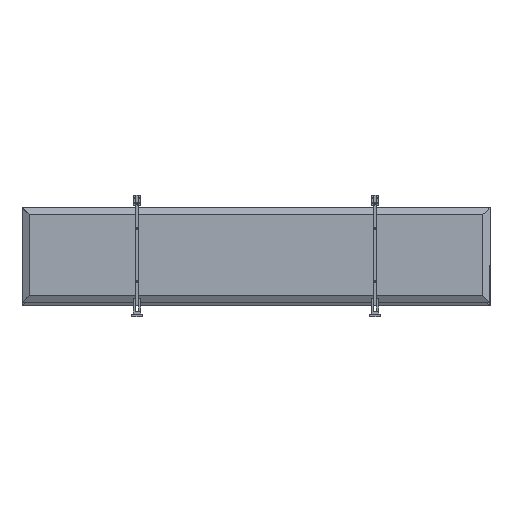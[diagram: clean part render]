
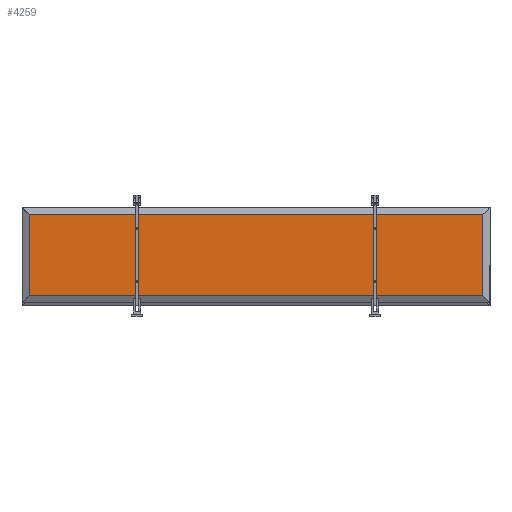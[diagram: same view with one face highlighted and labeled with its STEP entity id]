
A CAD part, front view. The second image highlights one B-rep face of the part: STEP entity #4259.
In plain terms, the highlighted planar face has unit normal (0, 1, 0).
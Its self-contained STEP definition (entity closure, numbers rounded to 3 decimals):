
#377=FACE_BOUND($,#6970,.T.);
#378=FACE_BOUND($,#6971,.T.);
#379=FACE_BOUND($,#6972,.T.);
#380=FACE_BOUND($,#6973,.T.);
#742=PLANE($,#26721);
#4259=ADVANCED_FACE($,(#5431,#377,#378,#379,#380),#742,.T.);
#5431=FACE_OUTER_BOUND($,#6969,.T.);
#6969=EDGE_LOOP($,(#11588,#11589,#11590,#11591));
#6970=EDGE_LOOP($,(#11592));
#6971=EDGE_LOOP($,(#11593));
#6972=EDGE_LOOP($,(#11594));
#6973=EDGE_LOOP($,(#11595));
#11588=ORIENTED_EDGE($,*,*,#16214,.T.);
#11589=ORIENTED_EDGE($,*,*,#16215,.T.);
#11590=ORIENTED_EDGE($,*,*,#16216,.T.);
#11591=ORIENTED_EDGE($,*,*,#16217,.T.);
#11592=ORIENTED_EDGE($,*,*,#16210,.T.);
#11593=ORIENTED_EDGE($,*,*,#16211,.T.);
#11594=ORIENTED_EDGE($,*,*,#16212,.T.);
#11595=ORIENTED_EDGE($,*,*,#16213,.T.);
#16210=EDGE_CURVE($,#20836,#20836,#26268,.T.);
#16211=EDGE_CURVE($,#20837,#20837,#26269,.T.);
#16212=EDGE_CURVE($,#20838,#20838,#26270,.T.);
#16213=EDGE_CURVE($,#20839,#20839,#26271,.T.);
#16214=EDGE_CURVE($,#20832,#20833,#24452,.T.);
#16215=EDGE_CURVE($,#20833,#20834,#24453,.T.);
#16216=EDGE_CURVE($,#20834,#20835,#24454,.T.);
#16217=EDGE_CURVE($,#20835,#20832,#24455,.T.);
#20832=VERTEX_POINT($,#62812);
#20833=VERTEX_POINT($,#62813);
#20834=VERTEX_POINT($,#62814);
#20835=VERTEX_POINT($,#62815);
#20836=VERTEX_POINT($,#62816);
#20837=VERTEX_POINT($,#62817);
#20838=VERTEX_POINT($,#62818);
#20839=VERTEX_POINT($,#62819);
#24452=B_SPLINE_CURVE_WITH_KNOTS($,1,(#62803,#62804),.UNSPECIFIED.,.F.,.F.,
(2,2),(0.,1.),.UNSPECIFIED.);
#24453=B_SPLINE_CURVE_WITH_KNOTS($,1,(#62805,#62806),.UNSPECIFIED.,.F.,.F.,
(2,2),(0.,1.),.UNSPECIFIED.);
#24454=B_SPLINE_CURVE_WITH_KNOTS($,1,(#62807,#62808),.UNSPECIFIED.,.F.,.F.,
(2,2),(-1.,0.),.UNSPECIFIED.);
#24455=B_SPLINE_CURVE_WITH_KNOTS($,1,(#62809,#62810),.UNSPECIFIED.,.F.,.F.,
(2,2),(-1.,0.),.UNSPECIFIED.);
#26268=(
BOUNDED_CURVE()
B_SPLINE_CURVE(2,(#62767,#62768,#62769,#62770,#62771,#62772,#62773,#62774,
#62775),.UNSPECIFIED.,.T.,.F.)
B_SPLINE_CURVE_WITH_KNOTS((3,2,2,2,3),(0.,1.571,3.142,
4.712,6.283),.UNSPECIFIED.)
CURVE()
GEOMETRIC_REPRESENTATION_ITEM()
RATIONAL_B_SPLINE_CURVE((1.,0.707,1.,0.707,1.,0.707,
1.,0.707,1.))
REPRESENTATION_ITEM($)
);
#26269=(
BOUNDED_CURVE()
B_SPLINE_CURVE(2,(#62776,#62777,#62778,#62779,#62780,#62781,#62782,#62783,
#62784),.UNSPECIFIED.,.T.,.F.)
B_SPLINE_CURVE_WITH_KNOTS((3,2,2,2,3),(0.,1.571,3.142,
4.712,6.283),.UNSPECIFIED.)
CURVE()
GEOMETRIC_REPRESENTATION_ITEM()
RATIONAL_B_SPLINE_CURVE((1.,0.707,1.,0.707,1.,0.707,
1.,0.707,1.))
REPRESENTATION_ITEM($)
);
#26270=(
BOUNDED_CURVE()
B_SPLINE_CURVE(2,(#62785,#62786,#62787,#62788,#62789,#62790,#62791,#62792,
#62793),.UNSPECIFIED.,.T.,.F.)
B_SPLINE_CURVE_WITH_KNOTS((3,2,2,2,3),(0.,1.571,3.142,
4.712,6.283),.UNSPECIFIED.)
CURVE()
GEOMETRIC_REPRESENTATION_ITEM()
RATIONAL_B_SPLINE_CURVE((1.,0.707,1.,0.707,1.,0.707,
1.,0.707,1.))
REPRESENTATION_ITEM($)
);
#26271=(
BOUNDED_CURVE()
B_SPLINE_CURVE(2,(#62794,#62795,#62796,#62797,#62798,#62799,#62800,#62801,
#62802),.UNSPECIFIED.,.T.,.F.)
B_SPLINE_CURVE_WITH_KNOTS((3,2,2,2,3),(0.,1.571,3.142,
4.712,6.283),.UNSPECIFIED.)
CURVE()
GEOMETRIC_REPRESENTATION_ITEM()
RATIONAL_B_SPLINE_CURVE((1.,0.707,1.,0.707,1.,0.707,
1.,0.707,1.))
REPRESENTATION_ITEM($)
);
#26721=AXIS2_PLACEMENT_3D($,#62811,#27086,$);
#27086=DIRECTION($,(0.,1.,0.));
#62767=CARTESIAN_POINT($,(15.,-605.,-305.));
#62768=CARTESIAN_POINT($,(13.,-605.,-305.));
#62769=CARTESIAN_POINT($,(13.,-605.,-307.));
#62770=CARTESIAN_POINT($,(13.,-605.,-309.));
#62771=CARTESIAN_POINT($,(15.,-605.,-309.));
#62772=CARTESIAN_POINT($,(17.,-605.,-309.));
#62773=CARTESIAN_POINT($,(17.,-605.,-307.));
#62774=CARTESIAN_POINT($,(17.,-605.,-305.));
#62775=CARTESIAN_POINT($,(15.,-605.,-305.));
#62776=CARTESIAN_POINT($,(915.,-605.,-305.));
#62777=CARTESIAN_POINT($,(913.,-605.,-305.));
#62778=CARTESIAN_POINT($,(913.,-605.,-307.));
#62779=CARTESIAN_POINT($,(913.,-605.,-309.));
#62780=CARTESIAN_POINT($,(915.,-605.,-309.));
#62781=CARTESIAN_POINT($,(917.,-605.,-309.));
#62782=CARTESIAN_POINT($,(917.,-605.,-307.));
#62783=CARTESIAN_POINT($,(917.,-605.,-305.));
#62784=CARTESIAN_POINT($,(915.,-605.,-305.));
#62785=CARTESIAN_POINT($,(915.,-605.,-105.));
#62786=CARTESIAN_POINT($,(913.,-605.,-105.));
#62787=CARTESIAN_POINT($,(913.,-605.,-107.));
#62788=CARTESIAN_POINT($,(913.,-605.,-109.));
#62789=CARTESIAN_POINT($,(915.,-605.,-109.));
#62790=CARTESIAN_POINT($,(917.,-605.,-109.));
#62791=CARTESIAN_POINT($,(917.,-605.,-107.));
#62792=CARTESIAN_POINT($,(917.,-605.,-105.));
#62793=CARTESIAN_POINT($,(915.,-605.,-105.));
#62794=CARTESIAN_POINT($,(15.,-605.,-105.));
#62795=CARTESIAN_POINT($,(13.,-605.,-105.));
#62796=CARTESIAN_POINT($,(13.,-605.,-107.));
#62797=CARTESIAN_POINT($,(13.,-605.,-109.));
#62798=CARTESIAN_POINT($,(15.,-605.,-109.));
#62799=CARTESIAN_POINT($,(17.,-605.,-109.));
#62800=CARTESIAN_POINT($,(17.,-605.,-107.));
#62801=CARTESIAN_POINT($,(17.,-605.,-105.));
#62802=CARTESIAN_POINT($,(15.,-605.,-105.));
#62803=CARTESIAN_POINT($,(-392.287,-605.,-359.287));
#62804=CARTESIAN_POINT($,(-392.287,-605.,-54.713));
#62805=CARTESIAN_POINT($,(-392.287,-605.,-54.713));
#62806=CARTESIAN_POINT($,(1322.287,-605.,-54.713));
#62807=CARTESIAN_POINT($,(1322.287,-605.,-54.713));
#62808=CARTESIAN_POINT($,(1322.287,-605.,-359.287));
#62809=CARTESIAN_POINT($,(1322.287,-605.,-359.287));
#62810=CARTESIAN_POINT($,(-392.287,-605.,-359.287));
#62811=CARTESIAN_POINT($,(-392.287,-605.,-359.287));
#62812=CARTESIAN_POINT($,(-392.287,-605.,-359.287));
#62813=CARTESIAN_POINT($,(-392.287,-605.,-54.713));
#62814=CARTESIAN_POINT($,(1322.287,-605.,-54.713));
#62815=CARTESIAN_POINT($,(1322.287,-605.,-359.287));
#62816=CARTESIAN_POINT($,(15.,-605.,-305.));
#62817=CARTESIAN_POINT($,(915.,-605.,-305.));
#62818=CARTESIAN_POINT($,(915.,-605.,-105.));
#62819=CARTESIAN_POINT($,(15.,-605.,-105.));
